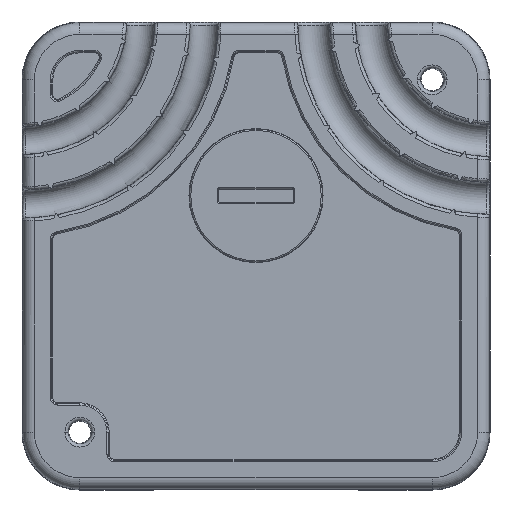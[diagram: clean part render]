
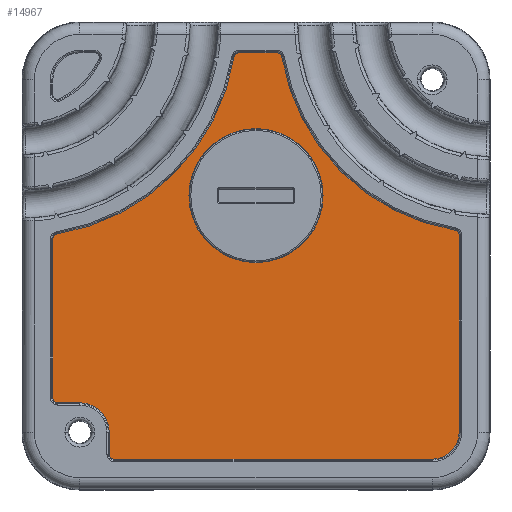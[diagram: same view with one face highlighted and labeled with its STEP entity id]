
A CAD part, front view. The second image highlights one B-rep face of the part: STEP entity #14967.
In plain terms, the highlighted planar face has unit normal (0, -1, 0).
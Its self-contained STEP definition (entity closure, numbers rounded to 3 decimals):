
#1688=CARTESIAN_POINT('',(0.,0.5,10.45));
#1689=DIRECTION('',(0.,-1.,0.));
#1690=DIRECTION('',(1.,0.,0.));
#1691=AXIS2_PLACEMENT_3D('',#1688,#1689,#1690);
#1693=CARTESIAN_POINT('',(0.,0.5,10.45));
#1694=DIRECTION('',(0.,-1.,0.));
#1695=DIRECTION('',(-1.,0.,0.));
#1696=AXIS2_PLACEMENT_3D('',#1693,#1694,#1695);
#1698=DIRECTION('',(0.,0.,-1.));
#1699=VECTOR('',#1698,34.164);
#1700=CARTESIAN_POINT('',(35.16,0.5,3.664));
#1701=LINE('',#1700,#1699);
#1702=CARTESIAN_POINT('',(30.5,0.5,-30.5));
#1703=DIRECTION('',(0.,1.,0.));
#1704=DIRECTION('',(1.,0.,0.));
#1705=AXIS2_PLACEMENT_3D('',#1702,#1703,#1704);
#1707=DIRECTION('',(-1.,0.,0.));
#1708=VECTOR('',#1707,55.1);
#1709=CARTESIAN_POINT('',(30.5,0.5,-35.16));
#1710=LINE('',#1709,#1708);
#1711=CARTESIAN_POINT('',(-24.6,0.5,-34.36));
#1712=DIRECTION('',(0.,1.,0.));
#1713=DIRECTION('',(0.,0.,-1.));
#1714=AXIS2_PLACEMENT_3D('',#1711,#1712,#1713);
#1716=DIRECTION('',(0.,0.,1.));
#1717=VECTOR('',#1716,3.86);
#1718=CARTESIAN_POINT('',(-25.4,0.5,-34.36));
#1719=LINE('',#1718,#1717);
#1720=CARTESIAN_POINT('',(-30.5,0.5,-30.5));
#1721=DIRECTION('',(0.,-1.,0.));
#1722=DIRECTION('',(1.,0.,0.));
#1723=AXIS2_PLACEMENT_3D('',#1720,#1721,#1722);
#1725=DIRECTION('',(-1.,0.,0.));
#1726=VECTOR('',#1725,3.86);
#1727=CARTESIAN_POINT('',(-30.5,0.5,-25.4));
#1728=LINE('',#1727,#1726);
#1729=CARTESIAN_POINT('',(-34.36,0.5,-24.6));
#1730=DIRECTION('',(0.,1.,0.));
#1731=DIRECTION('',(0.,0.,-1.));
#1732=AXIS2_PLACEMENT_3D('',#1729,#1730,#1731);
#1734=DIRECTION('',(0.,0.,1.));
#1735=VECTOR('',#1734,27.611);
#1736=CARTESIAN_POINT('',(-35.16,0.5,-24.6));
#1737=LINE('',#1736,#1735);
#1738=CARTESIAN_POINT('',(-34.36,0.5,3.011));
#1739=DIRECTION('',(0.,1.,0.));
#1740=DIRECTION('',(-1.,0.,0.));
#1741=AXIS2_PLACEMENT_3D('',#1738,#1739,#1740);
#1743=CARTESIAN_POINT('',(-40.5,0.5,40.5));
#1744=DIRECTION('',(0.,-1.,0.));
#1745=DIRECTION('',(0.162,0.,-0.987));
#1746=AXIS2_PLACEMENT_3D('',#1743,#1744,#1745);
#1748=CARTESIAN_POINT('',(-3.011,0.5,34.36));
#1749=DIRECTION('',(0.,1.,0.));
#1750=DIRECTION('',(-0.987,0.,0.162));
#1751=AXIS2_PLACEMENT_3D('',#1748,#1749,#1750);
#1753=DIRECTION('',(1.,0.,0.));
#1754=VECTOR('',#1753,6.675);
#1755=CARTESIAN_POINT('',(-3.011,0.5,35.16));
#1756=LINE('',#1755,#1754);
#1757=CARTESIAN_POINT('',(3.664,0.5,34.36));
#1758=DIRECTION('',(0.,1.,0.));
#1759=DIRECTION('',(0.,0.,1.));
#1760=AXIS2_PLACEMENT_3D('',#1757,#1758,#1759);
#1762=CARTESIAN_POINT('',(40.5,0.5,40.5));
#1763=DIRECTION('',(0.,-1.,0.));
#1764=DIRECTION('',(-0.986,0.,-0.164));
#1765=AXIS2_PLACEMENT_3D('',#1762,#1763,#1764);
#1767=CARTESIAN_POINT('',(34.36,0.5,3.664));
#1768=DIRECTION('',(0.,1.,0.));
#1769=DIRECTION('',(0.164,0.,0.986));
#1770=AXIS2_PLACEMENT_3D('',#1767,#1768,#1769);
#11094=CARTESIAN_POINT('',(11.6,0.5,10.45));
#11095=CARTESIAN_POINT('',(-11.6,0.5,10.45));
#11096=VERTEX_POINT('',#11094);
#11097=VERTEX_POINT('',#11095);
#11098=CARTESIAN_POINT('',(35.16,0.5,3.664));
#11099=CARTESIAN_POINT('',(35.16,0.5,-30.5));
#11100=VERTEX_POINT('',#11098);
#11101=VERTEX_POINT('',#11099);
#11106=CARTESIAN_POINT('',(30.5,0.5,-35.16));
#11107=VERTEX_POINT('',#11106);
#11110=CARTESIAN_POINT('',(-24.6,0.5,-35.16));
#11111=VERTEX_POINT('',#11110);
#11114=CARTESIAN_POINT('',(-34.489,0.5,3.8));
#11115=CARTESIAN_POINT('',(-3.8,0.5,34.489));
#11116=VERTEX_POINT('',#11114);
#11117=VERTEX_POINT('',#11115);
#11122=CARTESIAN_POINT('',(-3.011,0.5,35.16));
#11123=CARTESIAN_POINT('',(3.664,0.5,35.16));
#11124=VERTEX_POINT('',#11122);
#11125=VERTEX_POINT('',#11123);
#11162=CARTESIAN_POINT('',(4.453,0.5,34.492));
#11163=VERTEX_POINT('',#11162);
#11166=CARTESIAN_POINT('',(34.492,0.5,4.453));
#11167=VERTEX_POINT('',#11166);
#11170=CARTESIAN_POINT('',(-25.4,0.5,-34.36));
#11171=VERTEX_POINT('',#11170);
#11174=CARTESIAN_POINT('',(-25.4,0.5,-30.5));
#11175=VERTEX_POINT('',#11174);
#11178=CARTESIAN_POINT('',(-30.5,0.5,-25.4));
#11179=VERTEX_POINT('',#11178);
#11182=CARTESIAN_POINT('',(-34.36,0.5,-25.4));
#11183=VERTEX_POINT('',#11182);
#11186=CARTESIAN_POINT('',(-35.16,0.5,-24.6));
#11187=VERTEX_POINT('',#11186);
#11190=CARTESIAN_POINT('',(-35.16,0.5,3.011));
#11191=VERTEX_POINT('',#11190);
#14923=CARTESIAN_POINT('',(0.,0.5,0.));
#14924=DIRECTION('',(0.,-1.,0.));
#14925=DIRECTION('',(1.,0.,0.));
#14926=AXIS2_PLACEMENT_3D('',#14923,#14924,#14925);
#14927=PLANE('',#14926);
#14929=ORIENTED_EDGE('',*,*,#14928,.T.);
#14931=ORIENTED_EDGE('',*,*,#14930,.T.);
#14933=ORIENTED_EDGE('',*,*,#14932,.T.);
#14935=ORIENTED_EDGE('',*,*,#14934,.T.);
#14937=ORIENTED_EDGE('',*,*,#14936,.T.);
#14939=ORIENTED_EDGE('',*,*,#14938,.T.);
#14941=ORIENTED_EDGE('',*,*,#14940,.T.);
#14943=ORIENTED_EDGE('',*,*,#14942,.T.);
#14945=ORIENTED_EDGE('',*,*,#14944,.T.);
#14947=ORIENTED_EDGE('',*,*,#14946,.T.);
#14949=ORIENTED_EDGE('',*,*,#14948,.T.);
#14951=ORIENTED_EDGE('',*,*,#14950,.T.);
#14953=ORIENTED_EDGE('',*,*,#14952,.T.);
#14955=ORIENTED_EDGE('',*,*,#14954,.T.);
#14956=ORIENTED_EDGE('',*,*,#14906,.T.);
#14958=ORIENTED_EDGE('',*,*,#14957,.T.);
#14959=EDGE_LOOP('',(#14929,#14931,#14933,#14935,#14937,#14939,#14941,#14943,
#14945,#14947,#14949,#14951,#14953,#14955,#14956,#14958));
#14960=FACE_OUTER_BOUND('',#14959,.F.);
#14962=ORIENTED_EDGE('',*,*,#14961,.T.);
#14964=ORIENTED_EDGE('',*,*,#14963,.T.);
#14965=EDGE_LOOP('',(#14962,#14964));
#14966=FACE_BOUND('',#14965,.F.);
#1692=CIRCLE('',#1691,11.6);
#1697=CIRCLE('',#1696,11.6);
#1706=CIRCLE('',#1705,4.66);
#1715=CIRCLE('',#1714,0.8);
#1724=CIRCLE('',#1723,5.1);
#1733=CIRCLE('',#1732,0.8);
#1742=CIRCLE('',#1741,0.8);
#1747=CIRCLE('',#1746,37.189);
#1752=CIRCLE('',#1751,0.8);
#1761=CIRCLE('',#1760,0.8);
#1766=CIRCLE('',#1765,36.544);
#1771=CIRCLE('',#1770,0.8);
#14906=EDGE_CURVE('',#11163,#11167,#1766,.T.);
#14928=EDGE_CURVE('',#11100,#11101,#1701,.T.);
#14930=EDGE_CURVE('',#11101,#11107,#1706,.T.);
#14932=EDGE_CURVE('',#11107,#11111,#1710,.T.);
#14934=EDGE_CURVE('',#11111,#11171,#1715,.T.);
#14936=EDGE_CURVE('',#11171,#11175,#1719,.T.);
#14938=EDGE_CURVE('',#11175,#11179,#1724,.T.);
#14940=EDGE_CURVE('',#11179,#11183,#1728,.T.);
#14942=EDGE_CURVE('',#11183,#11187,#1733,.T.);
#14944=EDGE_CURVE('',#11187,#11191,#1737,.T.);
#14946=EDGE_CURVE('',#11191,#11116,#1742,.T.);
#14948=EDGE_CURVE('',#11116,#11117,#1747,.T.);
#14950=EDGE_CURVE('',#11117,#11124,#1752,.T.);
#14952=EDGE_CURVE('',#11124,#11125,#1756,.T.);
#14954=EDGE_CURVE('',#11125,#11163,#1761,.T.);
#14957=EDGE_CURVE('',#11167,#11100,#1771,.T.);
#14961=EDGE_CURVE('',#11096,#11097,#1692,.T.);
#14963=EDGE_CURVE('',#11097,#11096,#1697,.T.);
#14967=ADVANCED_FACE('',(#14960,#14966),#14927,.T.);
